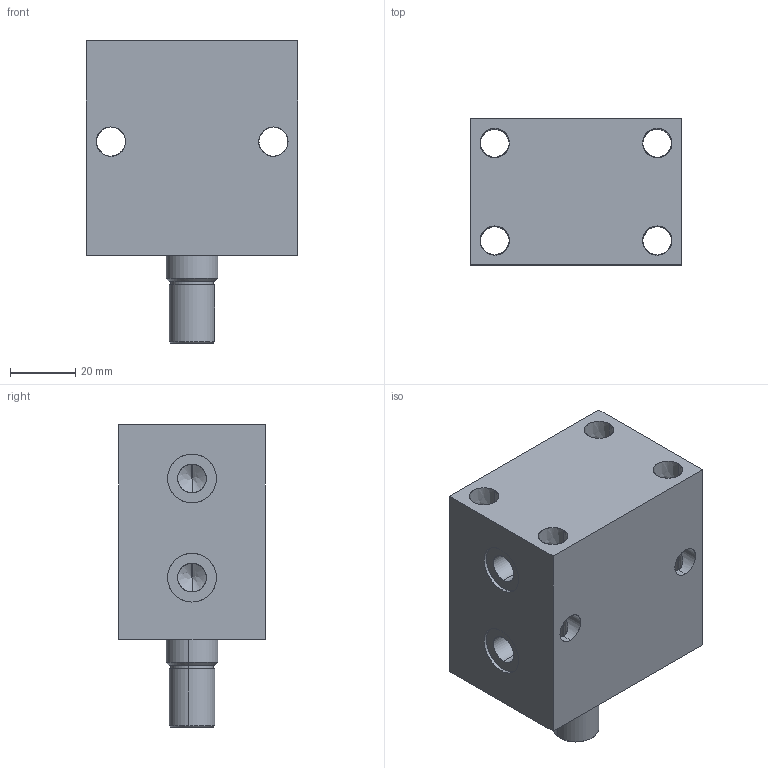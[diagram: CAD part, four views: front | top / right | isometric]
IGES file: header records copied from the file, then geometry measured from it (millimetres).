
Start section: SolidWorks IGES file using analytic representation for surfaces
Global section: file name: D:\karuppas\Clasp\3D model\Block cylinder B01C-Male thread - Copy\B01C-116M\Block cylinder B01C_116M.IGS; native system: SolidWorks 2017; preprocessor: SolidWorks 2017; author: pc; date: 220709.232619; units: millimetre
Bounding box: 65 x 45 x 93 mm (x, y, z)
Surface area: 35142.1 mm2 (no closed solid volume)
Topology: 0 solids, 0 shells, 335 faces, 5449 edges, 5445 vertices
Faces by surface type: bspline 293, revolution 42
